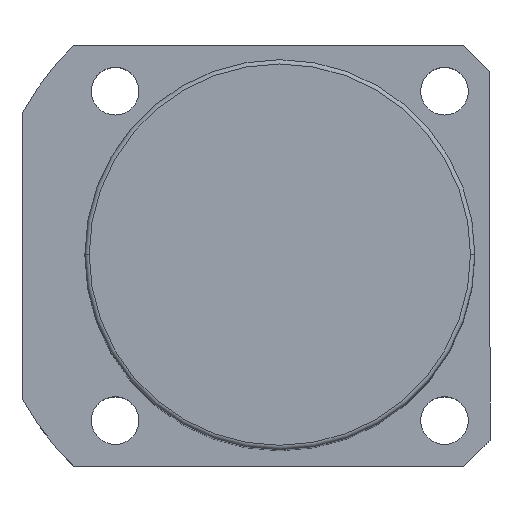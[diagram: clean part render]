
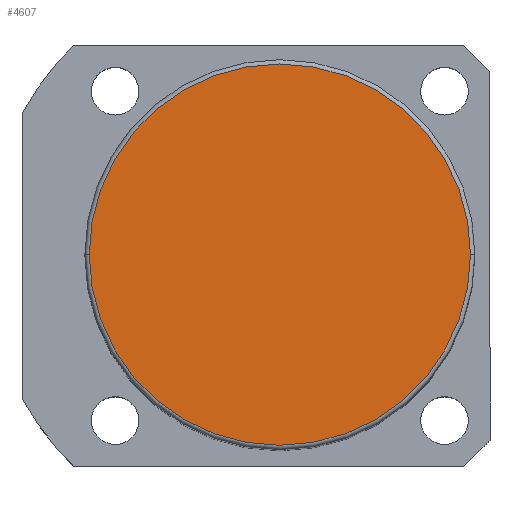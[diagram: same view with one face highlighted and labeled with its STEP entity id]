
A CAD part, top view. The second image highlights one B-rep face of the part: STEP entity #4607.
In plain terms, the highlighted planar face has unit normal (0, 0, 1).
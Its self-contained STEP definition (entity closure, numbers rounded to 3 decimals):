
#13 = DIRECTION ( 'NONE',  ( 1., 0., 0. ) ) ;
#287 = VERTEX_POINT ( 'NONE', #4372 ) ;
#360 = AXIS2_PLACEMENT_3D ( 'NONE', #5004, #3339, #13 ) ;
#1409 = CARTESIAN_POINT ( 'NONE',  ( 0., 0., 176.5 ) ) ;
#1568 = DIRECTION ( 'NONE',  ( 1., 0., 0. ) ) ;
#1617 = DIRECTION ( 'NONE',  ( 0., 0., 1. ) ) ;
#1717 = AXIS2_PLACEMENT_3D ( 'NONE', #1409, #6294, #4680 ) ;
#1735 = EDGE_CURVE ( 'NONE', #5725, #287, #5033, .T. ) ;
#1850 = ORIENTED_EDGE ( 'NONE', *, *, #1735, .T. ) ;
#2006 = CARTESIAN_POINT ( 'NONE',  ( 0., 0., 176.5 ) ) ;
#2034 = ORIENTED_EDGE ( 'NONE', *, *, #2079, .T. ) ;
#2079 = EDGE_CURVE ( 'NONE', #287, #5725, #2200, .T. ) ;
#2200 = CIRCLE ( 'NONE', #6293, 44. ) ;
#2781 = PLANE ( 'NONE',  #360 ) ;
#3339 = DIRECTION ( 'NONE',  ( 0., 0., 1. ) ) ;
#4372 = CARTESIAN_POINT ( 'NONE',  ( -44., 0., 176.5 ) ) ;
#4607 = ADVANCED_FACE ( 'NONE', ( #4701 ), #2781, .T. ) ;
#4680 = DIRECTION ( 'NONE',  ( 1., 0., 0. ) ) ;
#4701 = FACE_OUTER_BOUND ( 'NONE', #7008, .T. ) ;
#4878 = CARTESIAN_POINT ( 'NONE',  ( 44., 0., 176.5 ) ) ;
#5004 = CARTESIAN_POINT ( 'NONE',  ( 0., 0., 176.5 ) ) ;
#5033 = CIRCLE ( 'NONE', #1717, 44. ) ;
#5725 = VERTEX_POINT ( 'NONE', #4878 ) ;
#6293 = AXIS2_PLACEMENT_3D ( 'NONE', #2006, #1617, #1568 ) ;
#6294 = DIRECTION ( 'NONE',  ( 0., 0., 1. ) ) ;
#7008 = EDGE_LOOP ( 'NONE', ( #1850, #2034 ) ) ;
